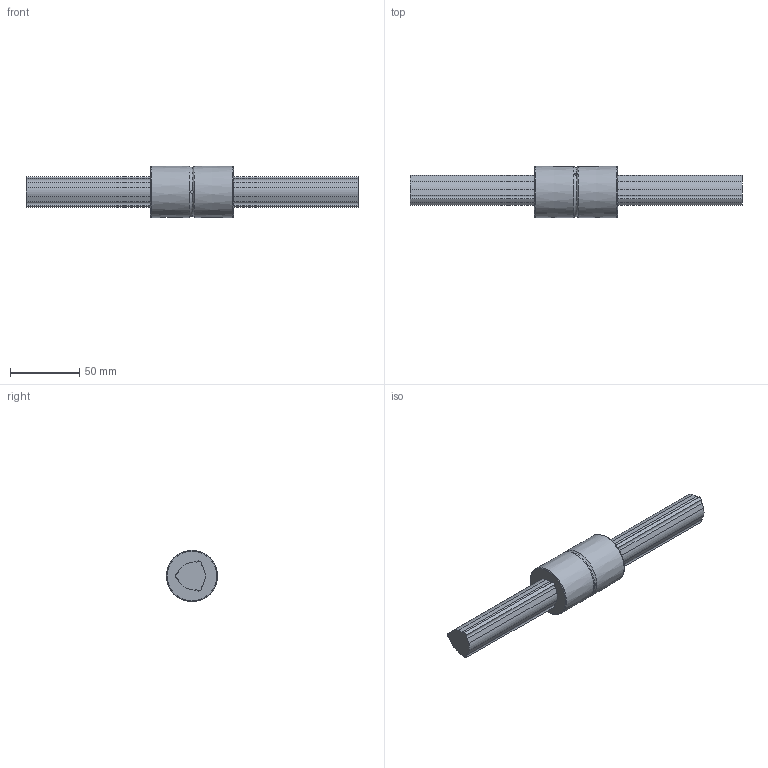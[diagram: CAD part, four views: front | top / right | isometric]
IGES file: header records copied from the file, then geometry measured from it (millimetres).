
Start section: Data from Parasolid IGES Translator 26.0.171, Copyright(c) 2006 Siemens PLM Software. All Rights Reserved.
Global section: file name: LBS25+240L(60900).igs; native system: By Siemens PLM Incorporated; preprocessor: XPlus GENERIC/IGES 26.0.171; author: Noname; organization: Noname; date: 20240523.115820; units: millimetre
Bounding box: 240 x 37 x 37 mm (x, y, z)
Surface area: 30815.5 mm2 (no closed solid volume)
Topology: 0 solids, 0 shells, 61 faces, 332 edges, 325 vertices
Faces by surface type: revolution 39, extrusion 22
